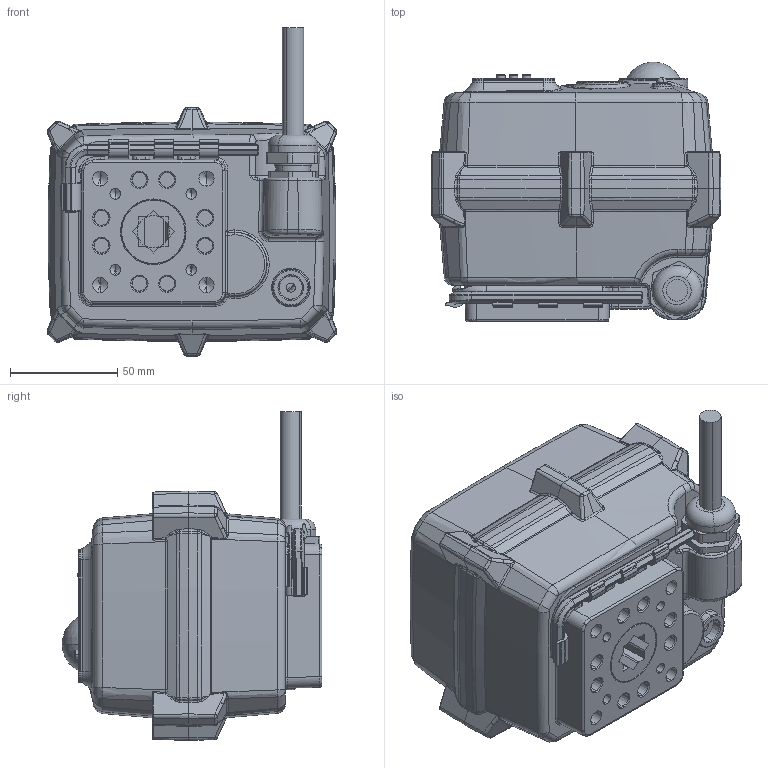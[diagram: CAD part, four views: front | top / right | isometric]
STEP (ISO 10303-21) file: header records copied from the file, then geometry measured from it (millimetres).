
FILE_DESCRIPTION (( 'STEP AP203' ), '1' );
FILE_NAME ('陔05俋倛芞.STEP', '2018-12-12T01:30:29', ( 'Microsoft' ), ( 'Microsoft' ), 'SwSTEP 2.0', 'SolidWorks 2018', '' );
FILE_SCHEMA (( 'CONFIG_CONTROL_DESIGN' ));
Length unit declared in the file: millimetre
Products named in the file (17): 噩え俋褲(揤翉臏); 忒雄粣蚐猾18x10x4; 镜片外壳内衬(压铸铝)-增加定位柱; M20-踢扽坶譫; 售忒殤-呿蹋; 忒雄粣-TCR05; TC05液晶压铸铝玻璃镜片; ABS囀硌尨齪釱; 喘謫怀堤; TCR05-硒俴ん狟裔-揤翉臏; 偌瑩111; TCR05-硒俴ん奻裔-揤翉臏; 售忒; ABS囀硌尨齪1; LED絳嫖翐; ABS囀硌尨齪2; 陔05俋倛芞
Assembly tree (17 placements, depth 2):
  陔05俋倛芞
    忒雄粣蚐猾18x10x4
    M20-踢扽坶譫
    忒雄粣-TCR05
    ABS囀硌尨齪釱  x2
    TCR05-硒俴ん狟裔-揤翉臏
    TCR05-硒俴ん奻裔-揤翉臏
    ABS囀硌尨齪1
    ABS囀硌尨齪2
    噩え俋褲(揤翉臏)
    镜片外壳内衬(压铸铝)-增加定位柱
    售忒殤-呿蹋
    TC05液晶压铸铝玻璃镜片
    喘謫怀堤
    偌瑩111
    售忒
    LED絳嫖翐
Bounding box: 134.88 x 120.92 x 153 mm (x, y, z)
Volume: 297356.4 mm3; surface area: 165497.4 mm2
Topology: 20 solids, 23 shells, 2364 faces, 5833 edges, 3566 vertices
Faces by surface type: bspline 605, cylinder 548, plane 524, cone 432, torus 211, sphere 44
Entity records: 94098 total; most frequent: CARTESIAN_POINT 41805, ORIENTED_EDGE 11358, DIRECTION 9643, EDGE_CURVE 5679, AXIS2_PLACEMENT_3D 3908, VERTEX_POINT 3510, EDGE_LOOP 2493, ADVANCED_FACE 2330
